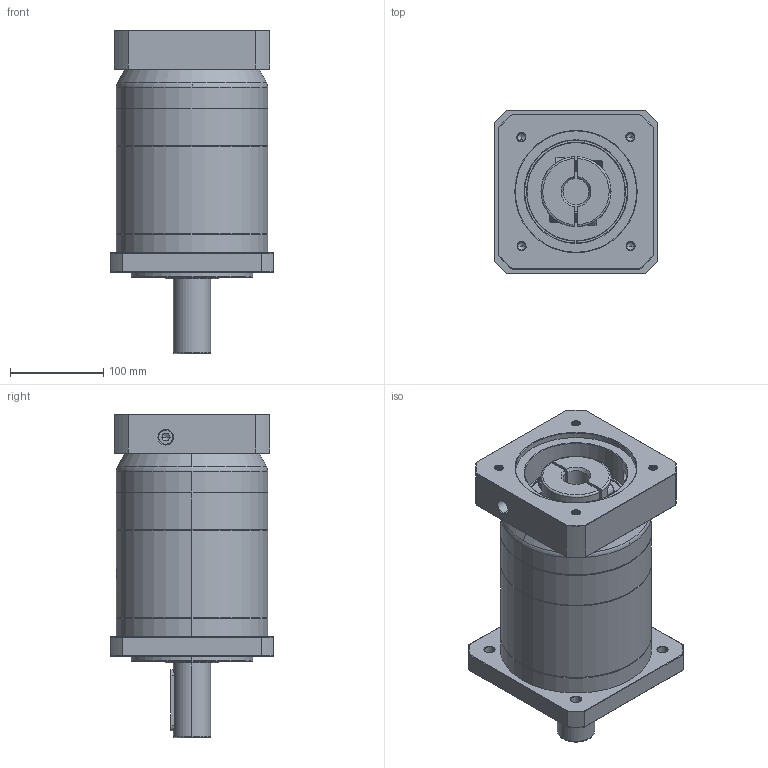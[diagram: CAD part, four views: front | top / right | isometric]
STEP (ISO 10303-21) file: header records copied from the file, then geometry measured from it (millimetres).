
FILE_DESCRIPTION (( 'STEP AP214' ), '1' );
FILE_NAME ('ZF160A-D40-L3-P2-28-130-165-M10.step', '2023-09-03T06:59:45', ( '' ), ( '' ), 'SwSTEP 2.0', 'SolidWorks 2016', '' );
FILE_SCHEMA (( 'AUTOMOTIVE_DESIGN' ));
Length unit declared in the file: millimetre
Products named in the file (1): ZF160A-D40-L3-P2-28-130-165-M10
Bounding box: 175 x 175 x 346.2 mm (x, y, z)
Volume: 5539552.3 mm3; surface area: 366384.7 mm2
Topology: 6 solids, 6 shells, 2211 faces, 5969 edges, 3866 vertices
Faces by surface type: plane 1016, cylinder 431, bspline 411, cone 329, torus 24
Entity records: 125748 total; most frequent: CARTESIAN_POINT 51062, ORIENTED_EDGE 11878, DIRECTION 8689, EDGE_CURVE 5939, VERTEX_POINT 3866, VECTOR 3075, LINE 3075, AXIS2_PLACEMENT_3D 2807
